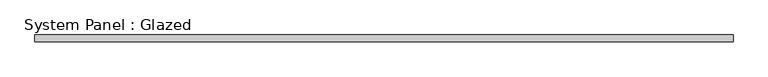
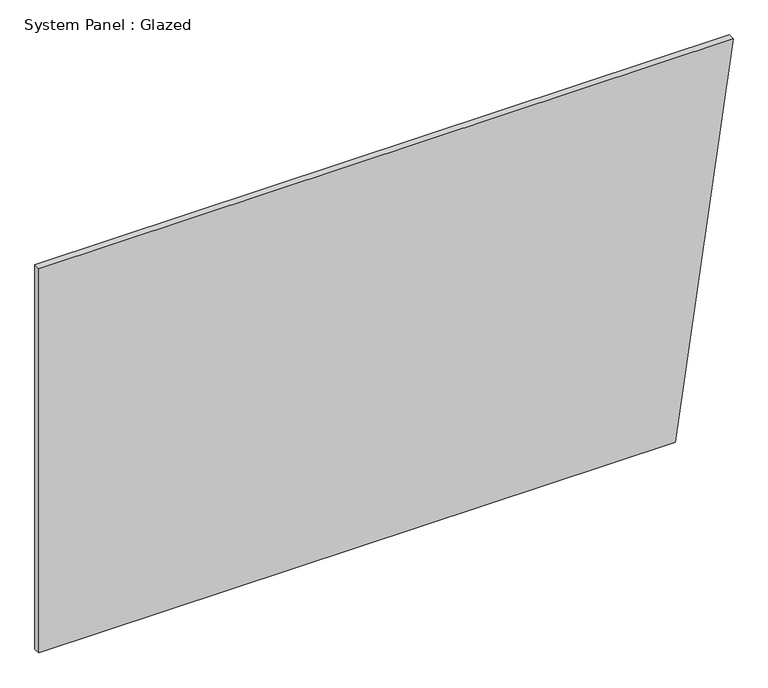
"""IFC4 building model written with IfcOpenShell, lengths in millimetres: plate geometry, System Panel : Glazed."""

from ifc_helpers import new_model, si_unit, frame, origin, place, context, project, spatial, polyline, outline, extrude, source, transform, mapped, element, save


def system_panel_glazed_5ee69f95(model_context):
    return source(origin(), model_context, "Body", "SweptSolid", [
        extrude(outline(polyline([(0.0, -1302.2721306), (0.0, 1085.2267755), (1524.0, 1302.2721306), (1524.0, -1302.2721306), (0.0, -1302.2721306)])), frame((0.0, 19.05, 0.0), z_axis=(0.0, 1.0, 0.0), x_axis=(0.0, 0.0, 1.0)), (0.0, 0.0, 1.0), 25.4),
    ])


if __name__ == "__main__":
    model = new_model("IFC4")
    model_context = context("Model", 3, world=origin())
    ifc_project = project(units=[si_unit("LENGTHUNIT", "METRE", prefix="MILLI")], contexts=[model_context])
    site = spatial("IfcSite", under=ifc_project)
    building = spatial("IfcBuilding", under=site)
    placement = place(None, origin())
    system_panel_glazed_shape = system_panel_glazed_5ee69f95(model_context)
    element("IfcPlate", 1, ObjectType="System Panel : Glazed", at=placement, inside=building, context=model_context, shape_type="MappedRepresentation", body=[
        mapped(system_panel_glazed_shape, transform((0.0, 0.0, 0.0), x_axis=(1.0, 0.0, 0.0), y_axis=(0.0, 1.0, 0.0), z_axis=(0.0, 0.0, 1.0))),
    ])
    save(model, "model.ifc")
